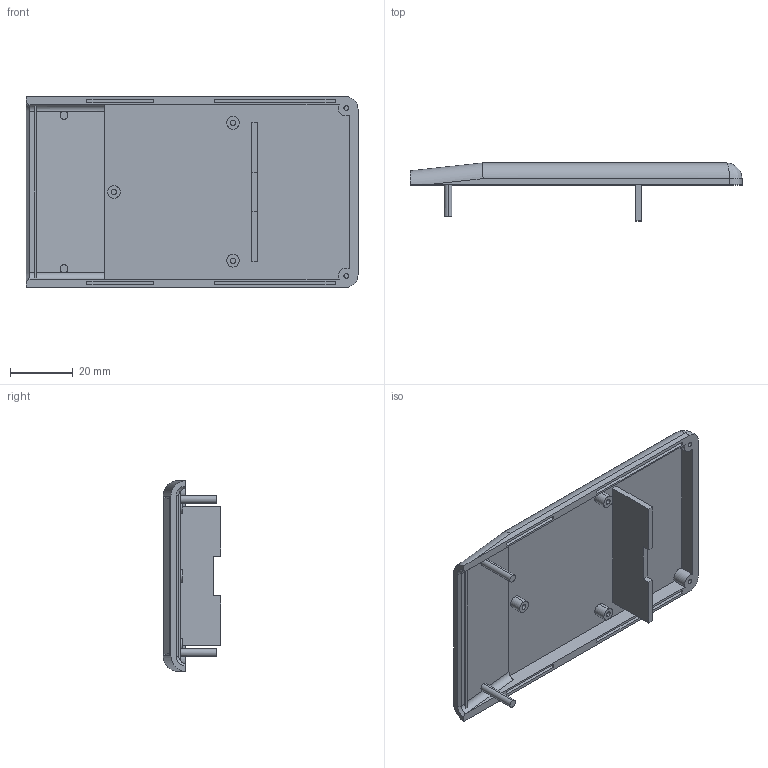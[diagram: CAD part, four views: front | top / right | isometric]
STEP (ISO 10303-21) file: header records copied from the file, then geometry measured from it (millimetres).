
FILE_DESCRIPTION (( 'STEP AP214' ), '1' );
FILE_NAME ('Tapa PP51.STEP', '2018-07-09T16:20:17', ( 'aaa' ), ( '' ), 'SwSTEP 2.0', 'SolidWorks 2013', '' );
FILE_SCHEMA (( 'AUTOMOTIVE_DESIGN' ));
Length unit declared in the file: millimetre
Products named in the file (1): Tapa PP51
Bounding box: 105.7 x 18.4 x 60.8 mm (x, y, z)
Volume: 17819.6 mm3; surface area: 18095.8 mm2
Topology: 1 solids, 1 shells, 116 faces, 276 edges, 176 vertices
Faces by surface type: plane 77, cylinder 33, bspline 6
Entity records: 3613 total; most frequent: CARTESIAN_POINT 984, ORIENTED_EDGE 544, DIRECTION 508, EDGE_CURVE 272, VECTOR 190, LINE 190, VERTEX_POINT 176, AXIS2_PLACEMENT_3D 159
